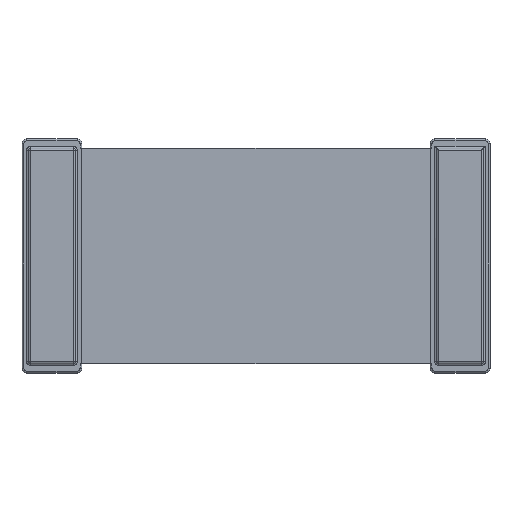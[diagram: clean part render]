
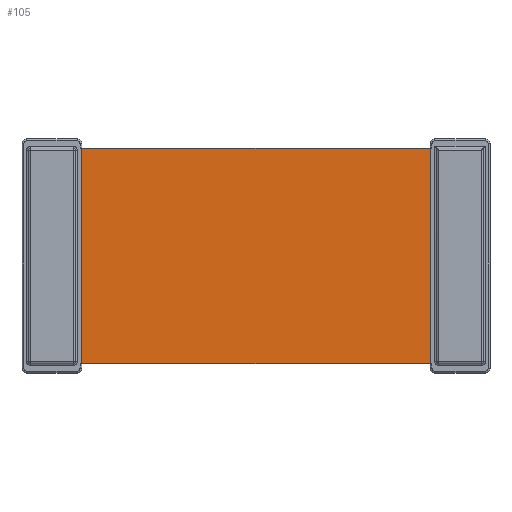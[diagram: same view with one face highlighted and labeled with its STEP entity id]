
A CAD part, top view. The second image highlights one B-rep face of the part: STEP entity #105.
In plain terms, the highlighted planar face has unit normal (0, 0, 1).
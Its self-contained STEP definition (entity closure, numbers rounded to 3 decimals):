
#105=ADVANCED_FACE('',(#1485),#1487,.T.);
#1485=FACE_BOUND('',#1486,.T.);
#1486=EDGE_LOOP('',(#2702,#2703,#2704,#2705));
#1487=PLANE('',#1488);
#1488=AXIS2_PLACEMENT_3D('',#1489,#1490,#1491);
#1489=CARTESIAN_POINT('',(0.,0.,0.271));
#1490=DIRECTION('',(0.,0.,1.));
#1491=DIRECTION('',(-1.,0.,0.));
#2702=ORIENTED_EDGE('',*,*,#3457,.T.);
#2703=ORIENTED_EDGE('',*,*,#3428,.T.);
#2704=ORIENTED_EDGE('',*,*,#3443,.T.);
#2705=ORIENTED_EDGE('',*,*,#3424,.T.);
#3424=EDGE_CURVE('',#3823,#3821,#3824,.T.);
#3428=EDGE_CURVE('',#3831,#3829,#3832,.T.);
#3443=EDGE_CURVE('',#3829,#3823,#3859,.T.);
#3457=EDGE_CURVE('',#3821,#3831,#3885,.T.);
#3821=VERTEX_POINT('',#4395);
#3823=VERTEX_POINT('',#4399);
#3824=LINE('',#4400,#4401);
#3829=VERTEX_POINT('',#4411);
#3831=VERTEX_POINT('',#4415);
#3832=LINE('',#4416,#4417);
#3859=LINE('',#4477,#4478);
#3885=LINE('',#4535,#4536);
#4395=CARTESIAN_POINT('',(-1.86,-1.15,0.271));
#4399=CARTESIAN_POINT('',(-1.86,1.15,0.271));
#4400=CARTESIAN_POINT('',(-1.86,1.15,0.271));
#4401=VECTOR('',#4402,1.);
#4402=DIRECTION('',(0.,-1.,0.));
#4411=CARTESIAN_POINT('',(1.86,1.15,0.271));
#4415=CARTESIAN_POINT('',(1.86,-1.15,0.271));
#4416=CARTESIAN_POINT('',(1.86,-1.15,0.271));
#4417=VECTOR('',#4418,1.);
#4418=DIRECTION('',(0.,1.,0.));
#4477=CARTESIAN_POINT('',(1.86,1.15,0.271));
#4478=VECTOR('',#4479,1.);
#4479=DIRECTION('',(-1.,0.,0.));
#4535=CARTESIAN_POINT('',(-1.86,-1.15,0.271));
#4536=VECTOR('',#4537,1.);
#4537=DIRECTION('',(1.,0.,0.));
